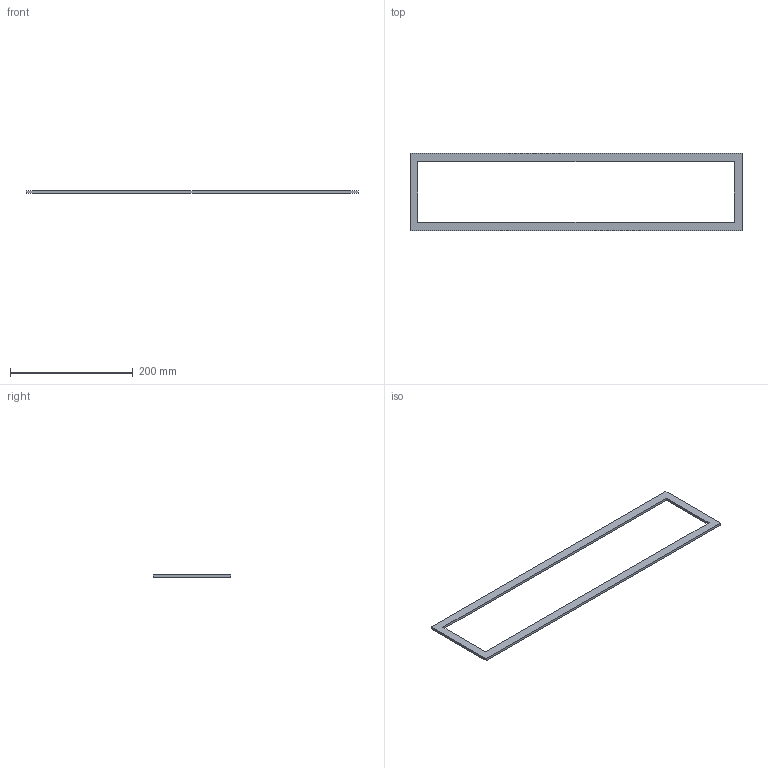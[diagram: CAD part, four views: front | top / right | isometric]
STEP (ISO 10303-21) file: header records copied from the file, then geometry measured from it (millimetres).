
FILE_DESCRIPTION( ( 'STEP AP214' ), '1' );
FILE_NAME( 'p:/temp/worker_116/temp/exporttempdir_2008_309_FUctZ/format_0/AG04(0).stp', '2021-03-15T13:05:28', ( 'License CC BY-ND 4.0' ), ( 'CADENAS' ), ' ', 'PARTsolutions', ' ' );
FILE_SCHEMA( ( 'AUTOMOTIVE_DESIGN { 1 0 10303 214 1 1 1 1 }' ) );
Length unit declared in the file: millimetre
Products named in the file (1): _AG04(0)
Bounding box: 540 x 126 x 4 mm (x, y, z)
Volume: 70672 mm3; surface area: 45560 mm2
Topology: 1 solids, 1 shells, 10 faces, 24 edges, 16 vertices
Faces by surface type: plane 10
Entity records: 388 total; most frequent: CARTESIAN_POINT 51, ORIENTED_EDGE 48, DIRECTION 46, EDGE_CURVE 24, LINE 24, VECTOR 24, VERTEX_POINT 16, EDGE_LOOP 12
